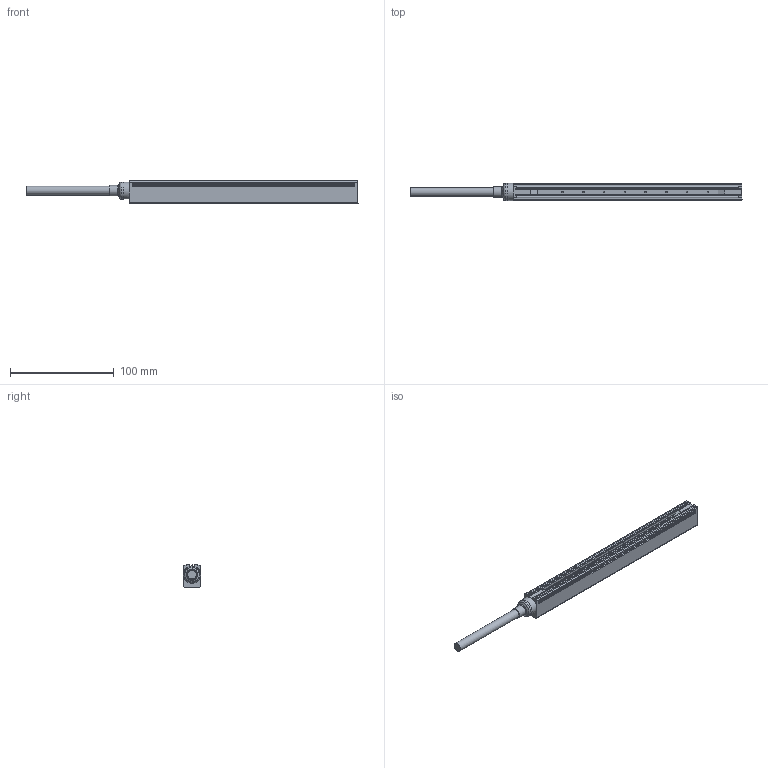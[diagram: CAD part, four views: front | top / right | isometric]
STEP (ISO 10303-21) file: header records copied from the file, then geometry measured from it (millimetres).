
FILE_DESCRIPTION(('Simco (Nederland) B.V.','HiCAD-Model','HiCAD-STEP-TRANSLATION','For information only'),'2;1');
FILE_NAME('SIMCO.STP','2012-01-01T00:00:00',('AB'),('www.simco-ion.nl'),' HiCAD 2011, Step 1600.0 ','HiCAD 2011','CONFIDENTIAL');
FILE_SCHEMA(('AUTOMOTIVE_DESIGN { 1 2 10303 214 0 1 1 1 }'));
Length unit declared in the file: millimetre
Products named in the file (3): SIMCO_MAXION_140_240; MAXION; CABLE
Assembly tree (2 placements, depth 2):
  SIMCO_MAXION_140_240
    MAXION
    CABLE
Bounding box: 320 x 16.6 x 21.8 mm (x, y, z)
Volume: 56893.7 mm3; surface area: 37328.8 mm2
Topology: 2 solids, 2 shells, 317 faces, 823 edges, 500 vertices
Faces by surface type: cylinder 136, plane 117, torus 40, cone 18, sphere 4, bspline 2
Full cylindrical faces by diameter (mm): 1.45 x8, 5 x4, 8.45 x2, 10.05 x1, 12.3 x1, 15 x1, 16.6 x2
Entity records: 16539 total; most frequent: CARTESIAN_POINT 3105, DIRECTION 1698, ORIENTED_EDGE 1482, COLOUR_RGB 997, PRESENTATION_STYLE_ASSIGNMENT 997, OVER_RIDING_STYLED_ITEM 995, EDGE_CURVE 741, CURVE_STYLE 735
